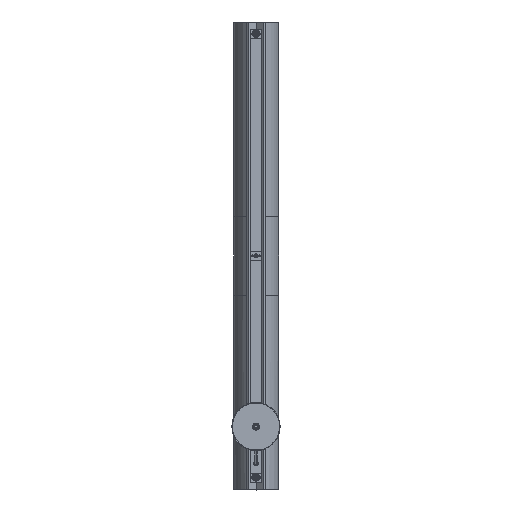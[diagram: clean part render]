
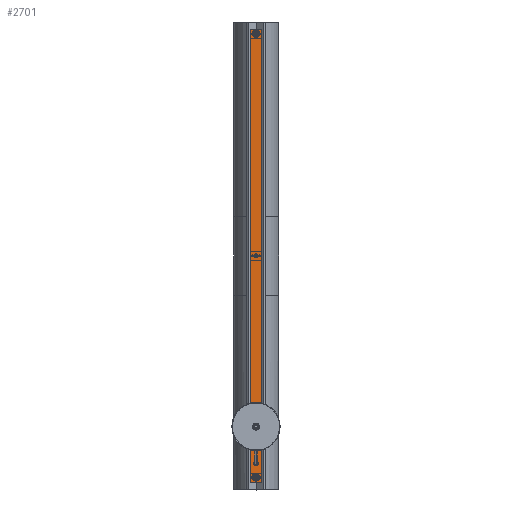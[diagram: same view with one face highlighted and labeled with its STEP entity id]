
A CAD part, top view. The second image highlights one B-rep face of the part: STEP entity #2701.
In plain terms, the highlighted planar face has unit normal (0, 0, 1).
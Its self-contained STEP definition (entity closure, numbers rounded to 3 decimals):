
#440=FACE_BOUND('',#4145,.T.);
#441=FACE_BOUND('',#4146,.T.);
#442=FACE_BOUND('',#4147,.T.);
#443=FACE_BOUND('',#4148,.T.);
#871=TRIMMED_CURVE($,#1569,(#27914),(#27915),.T.,.CARTESIAN.);
#875=TRIMMED_CURVE($,#1573,(#27940),(#27941),.T.,.CARTESIAN.);
#877=TRIMMED_CURVE($,#1575,(#27948),(#27949),.T.,.CARTESIAN.);
#879=TRIMMED_CURVE($,#1577,(#27956),(#27957),.T.,.CARTESIAN.);
#880=TRIMMED_CURVE($,#1578,(#27987),(#27988),.T.,.CARTESIAN.);
#882=TRIMMED_CURVE($,#1580,(#27995),(#27996),.T.,.CARTESIAN.);
#884=TRIMMED_CURVE($,#1582,(#28003),(#28004),.T.,.CARTESIAN.);
#886=TRIMMED_CURVE($,#1584,(#28011),(#28012),.T.,.CARTESIAN.);
#888=TRIMMED_CURVE($,#1586,(#28017),(#28018),.T.,.CARTESIAN.);
#890=TRIMMED_CURVE($,#1588,(#28023),(#28024),.T.,.CARTESIAN.);
#892=TRIMMED_CURVE($,#1590,(#28029),(#28030),.T.,.CARTESIAN.);
#897=TRIMMED_CURVE($,#1595,(#28048),(#28049),.T.,.CARTESIAN.);
#1569=CIRCLE('',#13496,3.);
#1573=CIRCLE('',#13500,3.1);
#1575=CIRCLE('',#13502,3.1);
#1577=CIRCLE('',#13504,3.1);
#1578=CIRCLE('',#13505,3.1);
#1580=CIRCLE('',#13507,3.1);
#1582=CIRCLE('',#13509,3.1);
#1584=CIRCLE('',#13511,2.);
#1586=CIRCLE('',#13513,2.);
#1588=CIRCLE('',#13515,2.);
#1590=CIRCLE('',#13517,2.);
#1595=CIRCLE('',#13522,3.);
#2701=ADVANCED_FACE('',(#3397,#440,#441,#442,#443),#12444,.T.);
#3397=FACE_OUTER_BOUND('',#4144,.T.);
#4144=EDGE_LOOP('',(#6329,#6330,#6331,#6332,#6333,#6334,#6335,#6336));
#4145=EDGE_LOOP('',(#6337,#6338));
#4146=EDGE_LOOP('',(#6339,#6340));
#4147=EDGE_LOOP('',(#6341,#6342));
#4148=EDGE_LOOP('',(#6343,#6344));
#6329=ORIENTED_EDGE('',*,*,#8923,.T.);
#6330=ORIENTED_EDGE('',*,*,#8939,.F.);
#6331=ORIENTED_EDGE('',*,*,#8926,.T.);
#6332=ORIENTED_EDGE('',*,*,#8943,.F.);
#6333=ORIENTED_EDGE('',*,*,#8917,.T.);
#6334=ORIENTED_EDGE('',*,*,#8945,.F.);
#6335=ORIENTED_EDGE('',*,*,#8920,.T.);
#6336=ORIENTED_EDGE('',*,*,#8941,.F.);
#6337=ORIENTED_EDGE('',*,*,#8936,.T.);
#6338=ORIENTED_EDGE('',*,*,#8909,.T.);
#6339=ORIENTED_EDGE('',*,*,#8933,.T.);
#6340=ORIENTED_EDGE('',*,*,#8912,.T.);
#6341=ORIENTED_EDGE('',*,*,#8930,.T.);
#6342=ORIENTED_EDGE('',*,*,#8915,.T.);
#6343=ORIENTED_EDGE('',*,*,#8952,.T.);
#6344=ORIENTED_EDGE('',*,*,#8900,.T.);
#8900=EDGE_CURVE('',#11739,#11738,#871,.T.);
#8909=EDGE_CURVE('',#11748,#11747,#875,.T.);
#8912=EDGE_CURVE('',#11752,#11751,#877,.T.);
#8915=EDGE_CURVE('',#11756,#11755,#879,.T.);
#8917=EDGE_CURVE('',#11759,#11760,#10387,.T.);
#8920=EDGE_CURVE('',#11763,#11764,#10390,.T.);
#8923=EDGE_CURVE('',#11767,#11768,#10393,.T.);
#8926=EDGE_CURVE('',#11771,#11772,#10396,.T.);
#8930=EDGE_CURVE('',#11755,#11756,#880,.T.);
#8933=EDGE_CURVE('',#11751,#11752,#882,.T.);
#8936=EDGE_CURVE('',#11747,#11748,#884,.T.);
#8939=EDGE_CURVE('',#11771,#11768,#886,.T.);
#8941=EDGE_CURVE('',#11767,#11764,#888,.T.);
#8943=EDGE_CURVE('',#11759,#11772,#890,.T.);
#8945=EDGE_CURVE('',#11763,#11760,#892,.T.);
#8952=EDGE_CURVE('',#11738,#11739,#897,.T.);
#10387=B_SPLINE_CURVE_WITH_KNOTS('',1,(#27960,#27961),.UNSPECIFIED.,.F.,
 .F.,(2,2),(-1.,0.),.UNSPECIFIED.);
#10390=B_SPLINE_CURVE_WITH_KNOTS('',1,(#27966,#27967),.UNSPECIFIED.,.F.,
 .F.,(2,2),(-1.,0.),.UNSPECIFIED.);
#10393=B_SPLINE_CURVE_WITH_KNOTS('',1,(#27972,#27973),.UNSPECIFIED.,.F.,
 .F.,(2,2),(-1.,0.),.UNSPECIFIED.);
#10396=B_SPLINE_CURVE_WITH_KNOTS('',1,(#27978,#27979),.UNSPECIFIED.,.F.,
 .F.,(2,2),(-1.,0.),.UNSPECIFIED.);
#11738=VERTEX_POINT('',#27849);
#11739=VERTEX_POINT('',#27850);
#11747=VERTEX_POINT('',#27858);
#11748=VERTEX_POINT('',#27859);
#11751=VERTEX_POINT('',#27862);
#11752=VERTEX_POINT('',#27863);
#11755=VERTEX_POINT('',#27866);
#11756=VERTEX_POINT('',#27867);
#11759=VERTEX_POINT('',#27870);
#11760=VERTEX_POINT('',#27871);
#11763=VERTEX_POINT('',#27874);
#11764=VERTEX_POINT('',#27875);
#11767=VERTEX_POINT('',#27878);
#11768=VERTEX_POINT('',#27879);
#11771=VERTEX_POINT('',#27882);
#11772=VERTEX_POINT('',#27883);
#12444=PLANE('',#13482);
#13482=AXIS2_PLACEMENT_3D('',#27827,#15180,$);
#13496=AXIS2_PLACEMENT_3D($,#27913,#15195,#15196);
#13500=AXIS2_PLACEMENT_3D($,#27939,#15203,#15204);
#13502=AXIS2_PLACEMENT_3D($,#27947,#15207,#15208);
#13504=AXIS2_PLACEMENT_3D($,#27955,#15211,#15212);
#13505=AXIS2_PLACEMENT_3D($,#27986,#15213,#15214);
#13507=AXIS2_PLACEMENT_3D($,#27994,#15217,#15218);
#13509=AXIS2_PLACEMENT_3D($,#28002,#15221,#15222);
#13511=AXIS2_PLACEMENT_3D($,#28010,#15225,#15226);
#13513=AXIS2_PLACEMENT_3D($,#28016,#15229,#15230);
#13515=AXIS2_PLACEMENT_3D($,#28022,#15233,#15234);
#13517=AXIS2_PLACEMENT_3D($,#28028,#15237,#15238);
#13522=AXIS2_PLACEMENT_3D($,#28047,#15247,#15248);
#15180=DIRECTION('',(0.,0.,1.));
#15195=DIRECTION('',(0.,0.,-1.));
#15196=DIRECTION('',(1.,0.,0.));
#15203=DIRECTION('',(0.,0.,-1.));
#15204=DIRECTION('',(1.,0.,0.));
#15207=DIRECTION('',(0.,0.,-1.));
#15208=DIRECTION('',(1.,0.,0.));
#15211=DIRECTION('',(0.,0.,-1.));
#15212=DIRECTION('',(1.,0.,0.));
#15213=DIRECTION('',(0.,0.,-1.));
#15214=DIRECTION('',(-1.,0.,0.));
#15217=DIRECTION('',(0.,0.,-1.));
#15218=DIRECTION('',(-1.,0.,0.));
#15221=DIRECTION('',(0.,0.,-1.));
#15222=DIRECTION('',(-1.,0.,0.));
#15225=DIRECTION('',(0.,0.,-1.));
#15226=DIRECTION('',(-1.,0.,0.));
#15229=DIRECTION('',(0.,0.,-1.));
#15230=DIRECTION('',(0.,1.,0.));
#15233=DIRECTION('',(0.,0.,-1.));
#15234=DIRECTION('',(0.,-1.,0.));
#15237=DIRECTION('',(0.,0.,-1.));
#15238=DIRECTION('',(1.,0.,0.));
#15247=DIRECTION('',(0.,0.,-1.));
#15248=DIRECTION('',(-1.,0.,0.));
#27827=CARTESIAN_POINT('',(12.,-65.,-748.797));
#27849=CARTESIAN_POINT('',(-3.,-25.,-748.797));
#27850=CARTESIAN_POINT('',(3.,-25.,-748.797));
#27858=CARTESIAN_POINT('',(-3.1,-55.,-748.797));
#27859=CARTESIAN_POINT('',(3.1,-55.,-748.797));
#27862=CARTESIAN_POINT('',(-3.1,865.,-748.797));
#27863=CARTESIAN_POINT('',(3.1,865.,-748.797));
#27866=CARTESIAN_POINT('',(-3.1,405.,-748.797));
#27867=CARTESIAN_POINT('',(3.1,405.,-748.797));
#27870=CARTESIAN_POINT('',(-10.,-65.,-748.797));
#27871=CARTESIAN_POINT('',(10.,-65.,-748.797));
#27874=CARTESIAN_POINT('',(12.,-63.,-748.797));
#27875=CARTESIAN_POINT('',(12.,873.,-748.797));
#27878=CARTESIAN_POINT('',(10.,875.,-748.797));
#27879=CARTESIAN_POINT('',(-10.,875.,-748.797));
#27882=CARTESIAN_POINT('',(-12.,873.,-748.797));
#27883=CARTESIAN_POINT('',(-12.,-63.,-748.797));
#27913=CARTESIAN_POINT('',(0.,-25.,-748.797));
#27914=CARTESIAN_POINT('',(3.,-25.,-748.797));
#27915=CARTESIAN_POINT('',(-3.,-25.,-748.797));
#27939=CARTESIAN_POINT('',(0.,-55.,-748.797));
#27940=CARTESIAN_POINT('',(3.1,-55.,-748.797));
#27941=CARTESIAN_POINT('',(-3.1,-55.,-748.797));
#27947=CARTESIAN_POINT('',(0.,865.,-748.797));
#27948=CARTESIAN_POINT('',(3.1,865.,-748.797));
#27949=CARTESIAN_POINT('',(-3.1,865.,-748.797));
#27955=CARTESIAN_POINT('',(0.,405.,-748.797));
#27956=CARTESIAN_POINT('',(3.1,405.,-748.797));
#27957=CARTESIAN_POINT('',(-3.1,405.,-748.797));
#27960=CARTESIAN_POINT('',(-10.,-65.,-748.797));
#27961=CARTESIAN_POINT('',(10.,-65.,-748.797));
#27966=CARTESIAN_POINT('',(12.,-63.,-748.797));
#27967=CARTESIAN_POINT('',(12.,873.,-748.797));
#27972=CARTESIAN_POINT('',(10.,875.,-748.797));
#27973=CARTESIAN_POINT('',(-10.,875.,-748.797));
#27978=CARTESIAN_POINT('',(-12.,873.,-748.797));
#27979=CARTESIAN_POINT('',(-12.,-63.,-748.797));
#27986=CARTESIAN_POINT('',(0.,405.,-748.797));
#27987=CARTESIAN_POINT('',(-3.1,405.,-748.797));
#27988=CARTESIAN_POINT('',(3.1,405.,-748.797));
#27994=CARTESIAN_POINT('',(0.,865.,-748.797));
#27995=CARTESIAN_POINT('',(-3.1,865.,-748.797));
#27996=CARTESIAN_POINT('',(3.1,865.,-748.797));
#28002=CARTESIAN_POINT('',(0.,-55.,-748.797));
#28003=CARTESIAN_POINT('',(-3.1,-55.,-748.797));
#28004=CARTESIAN_POINT('',(3.1,-55.,-748.797));
#28010=CARTESIAN_POINT('',(-10.,873.,-748.797));
#28011=CARTESIAN_POINT('',(-12.,873.,-748.797));
#28012=CARTESIAN_POINT('',(-10.,875.,-748.797));
#28016=CARTESIAN_POINT('',(10.,873.,-748.797));
#28017=CARTESIAN_POINT('',(10.,875.,-748.797));
#28018=CARTESIAN_POINT('',(12.,873.,-748.797));
#28022=CARTESIAN_POINT('',(-10.,-63.,-748.797));
#28023=CARTESIAN_POINT('',(-10.,-65.,-748.797));
#28024=CARTESIAN_POINT('',(-12.,-63.,-748.797));
#28028=CARTESIAN_POINT('',(10.,-63.,-748.797));
#28029=CARTESIAN_POINT('',(12.,-63.,-748.797));
#28030=CARTESIAN_POINT('',(10.,-65.,-748.797));
#28047=CARTESIAN_POINT('',(0.,-25.,-748.797));
#28048=CARTESIAN_POINT('',(-3.,-25.,-748.797));
#28049=CARTESIAN_POINT('',(3.,-25.,-748.797));
